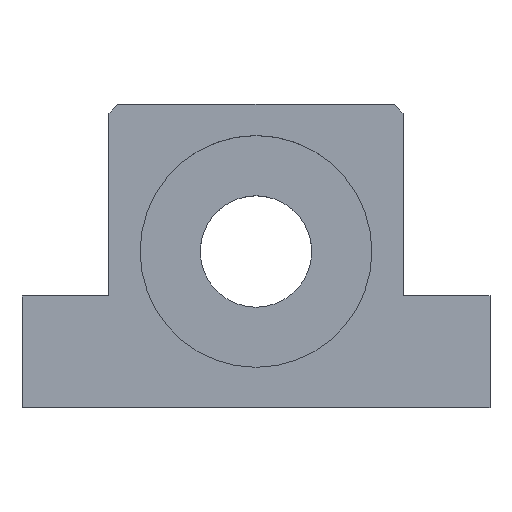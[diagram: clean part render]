
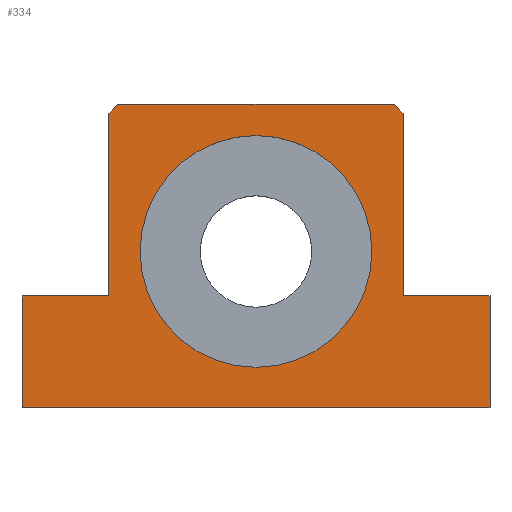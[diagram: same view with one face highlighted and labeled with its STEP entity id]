
A CAD part, top view. The second image highlights one B-rep face of the part: STEP entity #334.
In plain terms, the highlighted planar face has unit normal (0, 0, 1).
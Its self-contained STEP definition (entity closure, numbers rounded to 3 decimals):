
#36=FACE_BOUND($,#91,.T.);
#42=CIRCLE($,#352,26.);
#59=FACE_OUTER_BOUND($,#90,.T.);
#90=EDGE_LOOP($,(#291,#292,#293,#294,#295,#296,#297,#298,#299,#300));
#91=EDGE_LOOP($,(#301));
#92=LINE($,#461,#122);
#98=LINE($,#472,#128);
#107=LINE($,#494,#137);
#110=LINE($,#499,#140);
#113=LINE($,#530,#143);
#115=LINE($,#533,#145);
#116=LINE($,#535,#146);
#117=LINE($,#538,#147);
#119=LINE($,#542,#149);
#121=LINE($,#545,#151);
#122=VECTOR($,#371,2.828);
#128=VECTOR($,#379,41.);
#137=VECTOR($,#394,2.828);
#140=VECTOR($,#399,41.);
#143=VECTOR($,#436,25.);
#145=VECTOR($,#440,19.5);
#146=VECTOR($,#443,62.);
#147=VECTOR($,#446,19.5);
#149=VECTOR($,#450,25.);
#151=VECTOR($,#454,105.);
#152=VERTEX_POINT($,#459);
#153=VERTEX_POINT($,#460);
#157=VERTEX_POINT($,#470);
#166=VERTEX_POINT($,#492);
#167=VERTEX_POINT($,#493);
#168=VERTEX_POINT($,#498);
#173=VERTEX_POINT($,#513);
#178=VERTEX_POINT($,#527);
#179=VERTEX_POINT($,#529);
#180=VERTEX_POINT($,#537);
#181=VERTEX_POINT($,#541);
#182=EDGE_CURVE($,#152,#153,#92,.T.);
#188=EDGE_CURVE($,#152,#157,#98,.T.);
#198=EDGE_CURVE($,#166,#167,#107,.T.);
#201=EDGE_CURVE($,#168,#167,#110,.T.);
#207=EDGE_CURVE($,#173,#173,#42,.T.);
#213=EDGE_CURVE($,#179,#178,#113,.T.);
#215=EDGE_CURVE($,#157,#179,#115,.T.);
#216=EDGE_CURVE($,#166,#153,#116,.T.);
#217=EDGE_CURVE($,#180,#168,#117,.T.);
#219=EDGE_CURVE($,#181,#180,#119,.T.);
#221=EDGE_CURVE($,#178,#181,#121,.T.);
#291=ORIENTED_EDGE($,*,*,#182,.F.);
#292=ORIENTED_EDGE($,*,*,#188,.T.);
#293=ORIENTED_EDGE($,*,*,#215,.T.);
#294=ORIENTED_EDGE($,*,*,#213,.T.);
#295=ORIENTED_EDGE($,*,*,#221,.T.);
#296=ORIENTED_EDGE($,*,*,#219,.T.);
#297=ORIENTED_EDGE($,*,*,#217,.T.);
#298=ORIENTED_EDGE($,*,*,#201,.T.);
#299=ORIENTED_EDGE($,*,*,#198,.F.);
#300=ORIENTED_EDGE($,*,*,#216,.T.);
#301=ORIENTED_EDGE($,*,*,#207,.T.);
#315=PLANE($,#366);
#334=ADVANCED_FACE($,(#59,#36),#315,.T.);
#352=AXIS2_PLACEMENT_3D($,#514,#417,#418);
#366=AXIS2_PLACEMENT_3D($,#546,#455,#456);
#371=DIRECTION($,(0.707,0.707,0.));
#379=DIRECTION($,(0.,-1.,0.));
#394=DIRECTION($,(0.707,-0.707,0.));
#399=DIRECTION($,(0.,1.,0.));
#417=DIRECTION('center_axis',(0.,0.,-1.));
#418=DIRECTION('ref_axis',(-1.,0.,0.));
#436=DIRECTION($,(0.,-1.,0.));
#440=DIRECTION($,(-1.,0.,0.));
#443=DIRECTION($,(-1.,0.,0.));
#446=DIRECTION($,(-1.,0.,0.));
#450=DIRECTION($,(0.,1.,0.));
#454=DIRECTION($,(1.,0.,0.));
#455=DIRECTION('center_axis',(0.,0.,1.));
#456=DIRECTION('ref_axis',(1.,0.,0.));
#459=CARTESIAN_POINT('',(19.5,66.,30.));
#460=CARTESIAN_POINT('',(21.5,68.,30.));
#461=CARTESIAN_POINT($,(19.038,65.538,30.));
#470=CARTESIAN_POINT('',(19.5,25.,30.));
#472=CARTESIAN_POINT($,(19.5,68.,30.));
#492=CARTESIAN_POINT('',(83.5,68.,30.));
#493=CARTESIAN_POINT('',(85.5,66.,30.));
#494=CARTESIAN_POINT($,(85.962,65.538,30.));
#498=CARTESIAN_POINT('',(85.5,25.,30.));
#499=CARTESIAN_POINT($,(85.5,25.,30.));
#513=CARTESIAN_POINT('',(78.5,35.,30.));
#514=CARTESIAN_POINT('Origin',(52.5,35.,30.));
#527=CARTESIAN_POINT('',(0.,0.,30.));
#529=CARTESIAN_POINT('',(0.,25.,30.));
#530=CARTESIAN_POINT($,(0.,25.,30.));
#533=CARTESIAN_POINT($,(19.5,25.,30.));
#535=CARTESIAN_POINT($,(85.5,68.,30.));
#537=CARTESIAN_POINT('',(105.,25.,30.));
#538=CARTESIAN_POINT($,(105.,25.,30.));
#541=CARTESIAN_POINT('',(105.,0.,30.));
#542=CARTESIAN_POINT($,(105.,0.,30.));
#545=CARTESIAN_POINT($,(0.,0.,30.));
#546=CARTESIAN_POINT('Origin',(52.5,29.153,30.));
